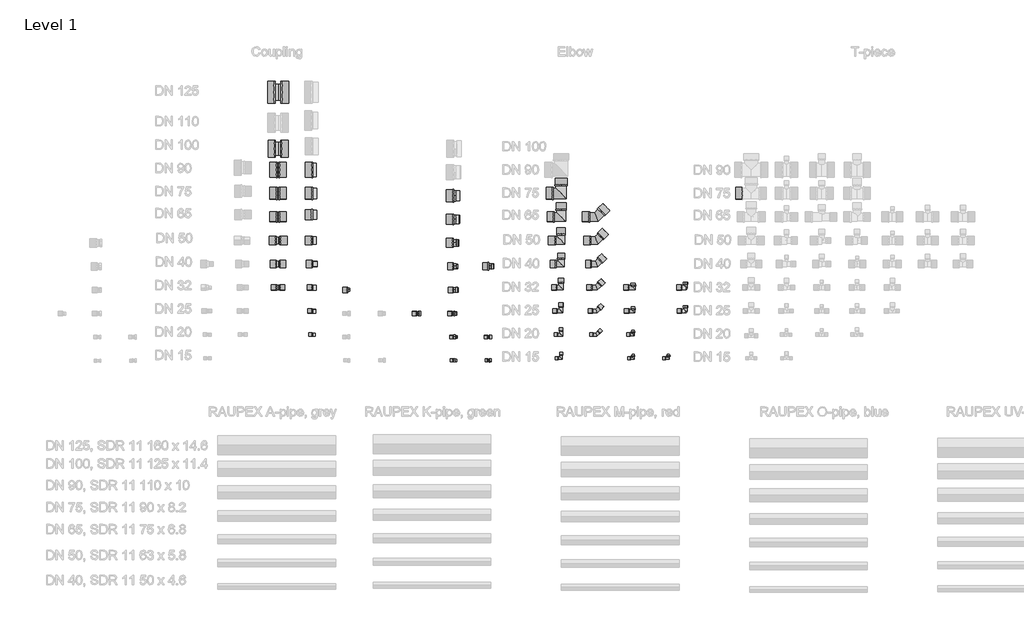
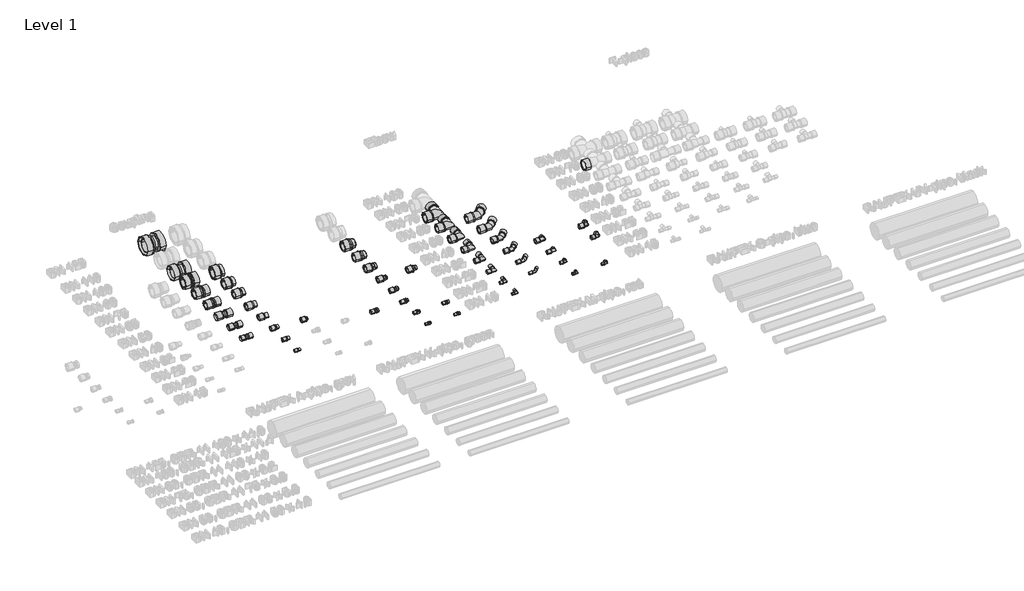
# One storey, part 3 of 15: 123 pipe fittings.
"""IFC4 building model written with IfcOpenShell, lengths in millimetres."""

from ifc_helpers import new_model, si_unit, origin, place, context, project, spatial, transform, mapped, element, save
from components import pipe_fitting_768e8c92, pipe_fitting_f6b20089, pipe_fitting_5d65e2c7, pipe_fitting_7715747c, pipe_fitting_184ea8aa, pipe_fitting_c80349c2, pipe_fitting_1cbe8aa9, pipe_fitting_2a62b2ce, coupling_union_655df743, coupling_union_f10d7a8f, coupling_union_26f199f2, coupling_union_cbcc5ad7, coupling_union_0abae06c, coupling_union_130b633a, coupling_union_132477e5, coupling_union_b98a8659, elbow_sdr11_lx_elbow_sdr_11_lx_623d303d, elbow_sdr11_lx_elbow_sdr_11_lx_9afd64a0, elbow_sdr11_lx_elbow_sdr_11_lx_04f5514c, elbow_sdr11_lx_elbow_sdr_11_lx_b8bc8752, elbow_sdr11_lx_elbow_sdr_11_lx_6126e5dd, elbow_sdr11_lx_elbow_sdr_11_lx_f17d2660, elbow_sdr11_lx_elbow_sdr_11_lx_81e20379, elbow_sdr11_lx_elbow_sdr_11_lx_e0cd5045, elbow_sdr11_lx_elbow_sdr_11_lx_ce320dea, elbow_sdr11_lx_elbow_sdr_11_lx_cb8a91fe, elbow_sdr11_lx_elbow_sdr_11_lx_393a3960, elbow_sdr11_lx_elbow_sdr_11_rx_da30d1f9, elbow_sdr11_lx_elbow_sdr_11_rx_8269fb62, elbow_sdr11_lx_elbow_sdr_11_rx_2fe19cfb, elbow_adapter_sdr11_lx_elbow_adapter_sdr_11_lx_4b792a66, elbow_adapter_sdr11_lx_elbow_adapter_sdr_11_lx_cc2d060e, elbow_adapter_sdr11_lx_elbow_adapter_sdr_11_lx_d02e2b3c, elbow_adapter_sdr11_lx_elbow_adapter_sdr_11_lx_d9d460eb, elbow_adapter_sdr11_lx_elbow_adapter_sdr_11_lx_9b6015cc, elbow_adapter_with_union_nut_sdr_11_lx_9001e0a9, elbow_adapter_with_union_nut_sdr_11_lx_84a4bca8, female_adapter_internal_thread_sdr11_female_adapter_lx_59931cbf, female_adapter_internal_thread_sdr11_female_adapter_lx_052b0fb5, male_adapter_external_thread_sdr11_male_adapter_lx_4a5881c0, male_adapter_external_thread_sdr11_male_adapter_lx_f4faac24, male_adapter_external_thread_sdr11_male_adapter_lx_0d78ced2, male_adapter_external_thread_sdr11_male_adapter_lx_96740124, male_adapter_external_thread_sdr11_male_adapter_lx_289b96de, male_adapter_external_thread_sdr11_male_adapter_lx_11594ce0, male_adapter_external_thread_sdr11_male_adapter_lx_ea96c67b, male_adapter_external_thread_sdr11_male_adapter_lx_b940736f, male_adapter_external_thread_sdr11_male_adapter_lx_cf543375, male_adapter_external_thread_sdr11_male_adapter_rx_4136f3fd, male_adapter_external_thread_sdr11_male_adapter_rx_7419d65c, sleeve_lx_11_2e170aa1, sleeve_lx_11_3fcb8560, sleeve_lx_11_f19e3dbf, sleeve_lx_11_b9b419b6, sleeve_lx_11_e5eab1a7, sleeve_lx_11_ddfe2885, sleeve_rx_11_7b1edd19, sleeve_rx_11_d7843ee1, sleeve_rx_11_d7b6a074, sleeve_rx_11_833a9f47, sleeve_rx_11_53dfce0b

model = new_model("IFC4")

# Units and contexts
model_context = context("Model", 3, world=origin())
ifc_project = project(units=[si_unit("LENGTHUNIT", "METRE", prefix="MILLI")], contexts=[model_context])

# Site, building, storey
site = spatial("IfcSite", under=ifc_project)
building = spatial("IfcBuilding", under=site)
storey = spatial("IfcBuildingStorey", under=building, Name="Level 1", Elevation=0.0)

# Pipe fittings
placement = place(None, origin())
pipe_fitting_shape = pipe_fitting_768e8c92(model_context)
element("IfcPipeFitting", 1, ObjectType="Adapter with welding end : A welding LX", at=placement, inside=storey, context=model_context, shape_type="MappedRepresentation", body=[
    mapped(pipe_fitting_shape, transform((12403.1112925, 1440.5489138, 0.0), x_axis=(1.0, 0.0, 0.0), y_axis=(0.0, 1.0, 0.0), z_axis=(0.0, 0.0, 1.0))),
])
pipe_fitting_2_shape = pipe_fitting_f6b20089(model_context)
element("IfcPipeFitting", 2, ObjectType="Adapter with welding end : A welding RX", at=placement, inside=storey, context=model_context, shape_type="MappedRepresentation", body=[
    mapped(pipe_fitting_2_shape, transform((12403.1112925, 2040.5489138, 0.0), x_axis=(1.0, 0.0, 0.0), y_axis=(0.0, 1.0, 0.0), z_axis=(0.0, 0.0, 1.0))),
])
pipe_fitting_3_shape = pipe_fitting_5d65e2c7(model_context)
element("IfcPipeFitting", 3, ObjectType="Adapter with welding end : A welding LX", at=placement, inside=storey, context=model_context, shape_type="MappedRepresentation", body=[
    mapped(pipe_fitting_3_shape, transform((12403.1112925, 640.5489138, 0.0), x_axis=(1.0, 0.0, 0.0), y_axis=(0.0, 1.0, 0.0), z_axis=(0.0, 0.0, 1.0))),
])
pipe_fitting_4_shape = pipe_fitting_7715747c(model_context)
element("IfcPipeFitting", 4, ObjectType="Adapter with welding end : A welding LX", at=placement, inside=storey, context=model_context, shape_type="MappedRepresentation", body=[
    mapped(pipe_fitting_4_shape, transform((12403.1112925, 1240.5489138, 0.0), x_axis=(1.0, 0.0, 0.0), y_axis=(0.0, 1.0, 0.0), z_axis=(0.0, 0.0, 1.0))),
])
pipe_fitting_5_shape = pipe_fitting_184ea8aa(model_context)
element("IfcPipeFitting", 5, ObjectType="Adapter with welding end : A welding LX", at=placement, inside=storey, context=model_context, shape_type="MappedRepresentation", body=[
    mapped(pipe_fitting_5_shape, transform((12403.1112925, 1040.5489138, 0.0), x_axis=(1.0, 0.0, 0.0), y_axis=(0.0, 1.0, 0.0), z_axis=(0.0, 0.0, 1.0))),
])
pipe_fitting_6_shape = pipe_fitting_c80349c2(model_context)
element("IfcPipeFitting", 6, ObjectType="Adapter with welding end : A welding LX", at=placement, inside=storey, context=model_context, shape_type="MappedRepresentation", body=[
    mapped(pipe_fitting_6_shape, transform((12403.1112925, 840.5489138, 0.0), x_axis=(1.0, 0.0, 0.0), y_axis=(0.0, 1.0, 0.0), z_axis=(0.0, 0.0, 1.0))),
])
pipe_fitting_7_shape = pipe_fitting_1cbe8aa9(model_context)
element("IfcPipeFitting", 7, ObjectType="Adapter with welding end : A welding RX", at=placement, inside=storey, context=model_context, shape_type="MappedRepresentation", body=[
    mapped(pipe_fitting_7_shape, transform((12403.1112925, 1660.5489138, 0.0), x_axis=(1.0, 0.0, 0.0), y_axis=(0.0, 1.0, 0.0), z_axis=(0.0, 0.0, 1.0))),
])
pipe_fitting_8_shape = pipe_fitting_2a62b2ce(model_context)
element("IfcPipeFitting", 8, ObjectType="Adapter with welding end : A welding RX", at=placement, inside=storey, context=model_context, shape_type="MappedRepresentation", body=[
    mapped(pipe_fitting_8_shape, transform((12403.1112925, 1840.5489138, 0.0), x_axis=(1.0, 0.0, 0.0), y_axis=(0.0, 1.0, 0.0), z_axis=(0.0, 0.0, 1.0))),
])
coupling_union_shape = coupling_union_655df743(model_context)
element("IfcPipeFitting", 9, ObjectType="Coupling union : C EQ SDR11 RX", at=placement, inside=storey, context=model_context, shape_type="MappedRepresentation", body=[
    mapped(coupling_union_shape, transform((12103.1112925, 2700.5489138, 0.0), x_axis=(1.0, 0.0, 0.0), y_axis=(0.0, 1.0, 0.0), z_axis=(0.0, 0.0, 1.0))),
])
coupling_union_2_shape = coupling_union_f10d7a8f(model_context)
element("IfcPipeFitting", 10, ObjectType="Coupling union : C EQ SDR11 LX", at=placement, inside=storey, context=model_context, shape_type="MappedRepresentation", body=[
    mapped(coupling_union_2_shape, transform((12103.1112925, 1440.5489138, 0.0), x_axis=(1.0, 0.0, 0.0), y_axis=(0.0, 1.0, 0.0), z_axis=(0.0, 0.0, 1.0))),
])
coupling_union_3_shape = coupling_union_26f199f2(model_context)
element("IfcPipeFitting", 11, ObjectType="Coupling union : C EQ SDR11 LX", at=placement, inside=storey, context=model_context, shape_type="MappedRepresentation", body=[
    mapped(coupling_union_3_shape, transform((12103.1112925, 1040.5489138, 0.0), x_axis=(1.0, 0.0, 0.0), y_axis=(0.0, 1.0, 0.0), z_axis=(0.0, 0.0, 1.0))),
])
coupling_union_4_shape = coupling_union_cbcc5ad7(model_context)
element("IfcPipeFitting", 12, ObjectType="Coupling union : C EQ SDR11 LX", at=placement, inside=storey, context=model_context, shape_type="MappedRepresentation", body=[
    mapped(coupling_union_4_shape, transform((12103.1112925, 1240.5489138, 0.0), x_axis=(1.0, 0.0, 0.0), y_axis=(0.0, 1.0, 0.0), z_axis=(0.0, 0.0, 1.0))),
])
coupling_union_5_shape = coupling_union_0abae06c(model_context)
element("IfcPipeFitting", 13, ObjectType="Coupling union : C EQ SDR11 RX", at=placement, inside=storey, context=model_context, shape_type="MappedRepresentation", body=[
    mapped(coupling_union_5_shape, transform((12103.1112925, 1640.5489138, 0.0), x_axis=(1.0, 0.0, 0.0), y_axis=(0.0, 1.0, 0.0), z_axis=(0.0, 0.0, 1.0))),
])
coupling_union_6_shape = coupling_union_130b633a(model_context)
element("IfcPipeFitting", 14, ObjectType="Coupling union : C EQ SDR11 RX", at=placement, inside=storey, context=model_context, shape_type="MappedRepresentation", body=[
    mapped(coupling_union_6_shape, transform((12103.1112925, 1840.5489138, 0.0), x_axis=(1.0, 0.0, 0.0), y_axis=(0.0, 1.0, 0.0), z_axis=(0.0, 0.0, 1.0))),
])
coupling_union_7_shape = coupling_union_132477e5(model_context)
element("IfcPipeFitting", 15, ObjectType="Coupling union : C EQ SDR11 RX", at=placement, inside=storey, context=model_context, shape_type="MappedRepresentation", body=[
    mapped(coupling_union_7_shape, transform((12103.1112925, 2040.5489138, 0.0), x_axis=(1.0, 0.0, 0.0), y_axis=(0.0, 1.0, 0.0), z_axis=(0.0, 0.0, 1.0))),
])
coupling_union_8_shape = coupling_union_b98a8659(model_context)
element("IfcPipeFitting", 16, ObjectType="Coupling union : C EQ SDR11 RX", at=placement, inside=storey, context=model_context, shape_type="MappedRepresentation", body=[
    mapped(coupling_union_8_shape, transform((12103.1112925, 2220.5489138, 0.0), x_axis=(1.0, 0.0, 0.0), y_axis=(0.0, 1.0, 0.0), z_axis=(0.0, 0.0, 1.0))),
])
elbow_sdr11_lx_elbow_sdr_11_lx_shape = elbow_sdr11_lx_elbow_sdr_11_lx_623d303d(model_context)
element("IfcPipeFitting", 17, ObjectType="Elbow SDR11 LX : Elbow SDR 11 LX", at=placement, inside=storey, context=model_context, shape_type="MappedRepresentation", body=[
    mapped(elbow_sdr11_lx_elbow_sdr_11_lx_shape, transform((14509.6158086, 640.5489138, 0.0), x_axis=(1.0, 0.0, 0.0), y_axis=(0.0, 1.0, 0.0), z_axis=(0.0, 0.0, 1.0))),
])
elbow_sdr11_lx_elbow_sdr_11_lx_2_shape = elbow_sdr11_lx_elbow_sdr_11_lx_9afd64a0(model_context)
element("IfcPipeFitting", 18, ObjectType="Elbow SDR11 LX : Elbow SDR 11 LX", at=placement, inside=storey, context=model_context, shape_type="MappedRepresentation", body=[
    mapped(elbow_sdr11_lx_elbow_sdr_11_lx_2_shape, transform((14509.6158086, 440.5489138, 0.0), x_axis=(1.0, 0.0, 0.0), y_axis=(0.0, 1.0, 0.0), z_axis=(0.0, 0.0, 1.0))),
])
elbow_sdr11_lx_elbow_sdr_11_lx_3_shape = elbow_sdr11_lx_elbow_sdr_11_lx_04f5514c(model_context)
element("IfcPipeFitting", 19, ObjectType="Elbow SDR11 LX : Elbow SDR 11 LX", at=placement, inside=storey, context=model_context, shape_type="MappedRepresentation", body=[
    mapped(elbow_sdr11_lx_elbow_sdr_11_lx_3_shape, transform((14509.6158086, 840.5489138, 0.0), x_axis=(1.0, 0.0, 0.0), y_axis=(0.0, 1.0, 0.0), z_axis=(0.0, 0.0, 1.0))),
])
elbow_sdr11_lx_elbow_sdr_11_lx_4_shape = elbow_sdr11_lx_elbow_sdr_11_lx_b8bc8752(model_context)
element("IfcPipeFitting", 20, ObjectType="Elbow SDR11 LX : Elbow SDR 11 LX", at=placement, inside=storey, context=model_context, shape_type="MappedRepresentation", body=[
    mapped(elbow_sdr11_lx_elbow_sdr_11_lx_4_shape, transform((14509.6158086, 1040.5489138, 0.0), x_axis=(1.0, 0.0, 0.0), y_axis=(0.0, 1.0, 0.0), z_axis=(0.0, 0.0, 1.0))),
])
elbow_sdr11_lx_elbow_sdr_11_lx_5_shape = elbow_sdr11_lx_elbow_sdr_11_lx_6126e5dd(model_context)
element("IfcPipeFitting", 21, ObjectType="Elbow SDR11 LX : Elbow SDR 11 LX", at=placement, inside=storey, context=model_context, shape_type="MappedRepresentation", body=[
    mapped(elbow_sdr11_lx_elbow_sdr_11_lx_5_shape, transform((14509.6158086, 1240.5489138, 0.0), x_axis=(1.0, 0.0, 0.0), y_axis=(0.0, 1.0, 0.0), z_axis=(0.0, 0.0, 1.0))),
])
elbow_sdr11_lx_elbow_sdr_11_lx_6_shape = elbow_sdr11_lx_elbow_sdr_11_lx_f17d2660(model_context)
element("IfcPipeFitting", 22, ObjectType="Elbow SDR11 LX : Elbow SDR 11 LX", at=placement, inside=storey, context=model_context, shape_type="MappedRepresentation", body=[
    mapped(elbow_sdr11_lx_elbow_sdr_11_lx_6_shape, transform((14509.6158086, 1440.5489138, 0.0), x_axis=(1.0, 0.0, 0.0), y_axis=(0.0, 1.0, 0.0), z_axis=(0.0, 0.0, 1.0))),
])
elbow_sdr11_lx_elbow_sdr_11_lx_7_shape = elbow_sdr11_lx_elbow_sdr_11_lx_81e20379(model_context)
element("IfcPipeFitting", 23, ObjectType="Elbow SDR11 LX : Elbow SDR 11 LX", at=placement, inside=storey, context=model_context, shape_type="MappedRepresentation", body=[
    mapped(elbow_sdr11_lx_elbow_sdr_11_lx_7_shape, transform((14809.6158086, 640.5489138, 0.0), x_axis=(1.0, 0.0, 0.0), y_axis=(0.0, 1.0, 0.0), z_axis=(0.0, 0.0, 1.0))),
])
elbow_sdr11_lx_elbow_sdr_11_lx_8_shape = elbow_sdr11_lx_elbow_sdr_11_lx_e0cd5045(model_context)
element("IfcPipeFitting", 24, ObjectType="Elbow SDR11 LX : Elbow SDR 11 LX", at=placement, inside=storey, context=model_context, shape_type="MappedRepresentation", body=[
    mapped(elbow_sdr11_lx_elbow_sdr_11_lx_8_shape, transform((14809.6158086, 840.5489138, 0.0), x_axis=(1.0, 0.0, 0.0), y_axis=(0.0, 1.0, 0.0), z_axis=(0.0, 0.0, 1.0))),
])
elbow_sdr11_lx_elbow_sdr_11_lx_9_shape = elbow_sdr11_lx_elbow_sdr_11_lx_ce320dea(model_context)
element("IfcPipeFitting", 25, ObjectType="Elbow SDR11 LX : Elbow SDR 11 LX", at=placement, inside=storey, context=model_context, shape_type="MappedRepresentation", body=[
    mapped(elbow_sdr11_lx_elbow_sdr_11_lx_9_shape, transform((14809.6158086, 1040.5489138, 0.0), x_axis=(1.0, 0.0, 0.0), y_axis=(0.0, 1.0, 0.0), z_axis=(0.0, 0.0, 1.0))),
])
elbow_sdr11_lx_elbow_sdr_11_lx_10_shape = elbow_sdr11_lx_elbow_sdr_11_lx_cb8a91fe(model_context)
element("IfcPipeFitting", 26, ObjectType="Elbow SDR11 LX : Elbow SDR 11 LX", at=placement, inside=storey, context=model_context, shape_type="MappedRepresentation", body=[
    mapped(elbow_sdr11_lx_elbow_sdr_11_lx_10_shape, transform((14809.6158086, 1240.5489138, 0.0), x_axis=(1.0, 0.0, 0.0), y_axis=(0.0, 1.0, 0.0), z_axis=(0.0, 0.0, 1.0))),
])
elbow_sdr11_lx_elbow_sdr_11_lx_11_shape = elbow_sdr11_lx_elbow_sdr_11_lx_393a3960(model_context)
element("IfcPipeFitting", 27, ObjectType="Elbow SDR11 LX : Elbow SDR 11 LX", at=placement, inside=storey, context=model_context, shape_type="MappedRepresentation", body=[
    mapped(elbow_sdr11_lx_elbow_sdr_11_lx_11_shape, transform((14809.6158086, 1440.5489138, 0.0), x_axis=(1.0, 0.0, 0.0), y_axis=(0.0, 1.0, 0.0), z_axis=(0.0, 0.0, 1.0))),
])
elbow_sdr11_lx_elbow_sdr_11_rx_shape = elbow_sdr11_lx_elbow_sdr_11_rx_da30d1f9(model_context)
element("IfcPipeFitting", 28, ObjectType="Elbow SDR11 LX : Elbow SDR 11 RX", at=placement, inside=storey, context=model_context, shape_type="MappedRepresentation", body=[
    mapped(elbow_sdr11_lx_elbow_sdr_11_rx_shape, transform((14509.6158086, 1640.5489138, 0.0), x_axis=(1.0, 0.0, 0.0), y_axis=(0.0, 1.0, 0.0), z_axis=(0.0, 0.0, 1.0))),
])
elbow_sdr11_lx_elbow_sdr_11_rx_2_shape = elbow_sdr11_lx_elbow_sdr_11_rx_8269fb62(model_context)
element("IfcPipeFitting", 29, ObjectType="Elbow SDR11 LX : Elbow SDR 11 RX", at=placement, inside=storey, context=model_context, shape_type="MappedRepresentation", body=[
    mapped(elbow_sdr11_lx_elbow_sdr_11_rx_2_shape, transform((14509.6158086, 1840.5489138, 0.0), x_axis=(1.0, 0.0, 0.0), y_axis=(0.0, 1.0, 0.0), z_axis=(0.0, 0.0, 1.0))),
])
elbow_sdr11_lx_elbow_sdr_11_rx_3_shape = elbow_sdr11_lx_elbow_sdr_11_rx_2fe19cfb(model_context)
element("IfcPipeFitting", 30, ObjectType="Elbow SDR11 LX : Elbow SDR 11 RX", at=placement, inside=storey, context=model_context, shape_type="MappedRepresentation", body=[
    mapped(elbow_sdr11_lx_elbow_sdr_11_rx_3_shape, transform((14809.6158086, 1640.5489138, 0.0), x_axis=(1.0, 0.0, 0.0), y_axis=(0.0, 1.0, 0.0), z_axis=(0.0, 0.0, 1.0))),
])
elbow_adapter_sdr11_lx_elbow_adapter_sdr_11_lx_shape = elbow_adapter_sdr11_lx_elbow_adapter_sdr_11_lx_4b792a66(model_context)
element("IfcPipeFitting", 31, ObjectType="Elbow adapter SDR11 LX : Elbow adapter SDR 11 LX", at=placement, inside=storey, context=model_context, shape_type="MappedRepresentation", body=[
    mapped(elbow_adapter_sdr11_lx_elbow_adapter_sdr_11_lx_shape, transform((15121.1751687, 440.5489138, 0.0), x_axis=(1.0, 0.0, 0.0), y_axis=(0.0, 1.0, 0.0), z_axis=(0.0, 0.0, 1.0))),
])
elbow_adapter_sdr11_lx_elbow_adapter_sdr_11_lx_2_shape = elbow_adapter_sdr11_lx_elbow_adapter_sdr_11_lx_cc2d060e(model_context)
element("IfcPipeFitting", 32, ObjectType="Elbow adapter SDR11 LX : Elbow adapter SDR 11 LX", at=placement, inside=storey, context=model_context, shape_type="MappedRepresentation", body=[
    mapped(elbow_adapter_sdr11_lx_elbow_adapter_sdr_11_lx_2_shape, transform((15421.1751687, 440.5489138, 0.0), x_axis=(1.0, 0.0, 0.0), y_axis=(0.0, 1.0, 0.0), z_axis=(0.0, 0.0, 1.0))),
])
elbow_adapter_sdr11_lx_elbow_adapter_sdr_11_lx_3_shape = elbow_adapter_sdr11_lx_elbow_adapter_sdr_11_lx_d02e2b3c(model_context)
element("IfcPipeFitting", 33, ObjectType="Elbow adapter SDR11 LX : Elbow adapter SDR 11 LX", at=placement, inside=storey, context=model_context, shape_type="MappedRepresentation", body=[
    mapped(elbow_adapter_sdr11_lx_elbow_adapter_sdr_11_lx_3_shape, transform((15121.1751687, 640.5489138, 0.0), x_axis=(1.0, 0.0, 0.0), y_axis=(0.0, 1.0, 0.0), z_axis=(0.0, 0.0, 1.0))),
])
elbow_adapter_sdr11_lx_elbow_adapter_sdr_11_lx_4_shape = elbow_adapter_sdr11_lx_elbow_adapter_sdr_11_lx_d9d460eb(model_context)
element("IfcPipeFitting", 34, ObjectType="Elbow adapter SDR11 LX : Elbow adapter SDR 11 LX", at=placement, inside=storey, context=model_context, shape_type="MappedRepresentation", body=[
    mapped(elbow_adapter_sdr11_lx_elbow_adapter_sdr_11_lx_4_shape, transform((15121.1751687, 840.5489138, 0.0), x_axis=(1.0, 0.0, 0.0), y_axis=(0.0, 1.0, 0.0), z_axis=(0.0, 0.0, 1.0))),
])
elbow_adapter_sdr11_lx_elbow_adapter_sdr_11_lx_5_shape = elbow_adapter_sdr11_lx_elbow_adapter_sdr_11_lx_9b6015cc(model_context)
element("IfcPipeFitting", 35, ObjectType="Elbow adapter SDR11 LX : Elbow adapter SDR 11 LX", at=placement, inside=storey, context=model_context, shape_type="MappedRepresentation", body=[
    mapped(elbow_adapter_sdr11_lx_elbow_adapter_sdr_11_lx_5_shape, transform((15121.1751687, 1040.5489138, 0.0), x_axis=(1.0, 0.0, 0.0), y_axis=(0.0, 1.0, 0.0), z_axis=(0.0, 0.0, 1.0))),
])
elbow_adapter_with_union_nut_sdr_11_lx_shape = elbow_adapter_with_union_nut_sdr_11_lx_9001e0a9(model_context)
element("IfcPipeFitting", 36, ObjectType="Elbow adapter with union nut SDR11 LX  : Elbow adapter with union nut SDR 11 LX", at=placement, inside=storey, context=model_context, shape_type="MappedRepresentation", body=[
    mapped(elbow_adapter_with_union_nut_sdr_11_lx_shape, transform((15569.0164475, 840.5489138, 0.0), x_axis=(1.0, 0.0, 0.0), y_axis=(0.0, 1.0, 0.0), z_axis=(0.0, 0.0, 1.0))),
])
elbow_adapter_with_union_nut_sdr_11_lx_2_shape = elbow_adapter_with_union_nut_sdr_11_lx_84a4bca8(model_context)
element("IfcPipeFitting", 37, ObjectType="Elbow adapter with union nut SDR11 LX  : Elbow adapter with union nut SDR 11 LX", at=placement, inside=storey, context=model_context, shape_type="MappedRepresentation", body=[
    mapped(elbow_adapter_with_union_nut_sdr_11_lx_2_shape, transform((15569.0164475, 1040.5489138, 0.0), x_axis=(1.0, 0.0, 0.0), y_axis=(0.0, 1.0, 0.0), z_axis=(0.0, 0.0, 1.0))),
])
female_adapter_internal_thread_sdr11_female_adapter_lx_shape = female_adapter_internal_thread_sdr11_female_adapter_lx_59931cbf(model_context)
element("IfcPipeFitting", 38, ObjectType="Female adapter internal thread SDR11 : Female adapter LX", at=placement, inside=storey, context=model_context, shape_type="MappedRepresentation", body=[
    mapped(female_adapter_internal_thread_sdr11_female_adapter_lx_shape, transform((13296.8014725, 820.5489138, 0.0), x_axis=(1.0, 0.0, 0.0), y_axis=(0.0, 1.0, 0.0), z_axis=(0.0, 0.0, 1.0))),
])
female_adapter_internal_thread_sdr11_female_adapter_lx_2_shape = female_adapter_internal_thread_sdr11_female_adapter_lx_052b0fb5(model_context)
element("IfcPipeFitting", 39, ObjectType="Female adapter internal thread SDR11 : Female adapter LX", at=placement, inside=storey, context=model_context, shape_type="MappedRepresentation", body=[
    mapped(female_adapter_internal_thread_sdr11_female_adapter_lx_2_shape, transform((12696.8014725, 1020.5489138, 0.0), x_axis=(1.0, 0.0, 0.0), y_axis=(0.0, 1.0, 0.0), z_axis=(0.0, 0.0, 1.0))),
])
male_adapter_external_thread_sdr11_male_adapter_lx_shape = male_adapter_external_thread_sdr11_male_adapter_lx_4a5881c0(model_context)
element("IfcPipeFitting", 40, ObjectType="Male adapter external thread SDR11 : Male adapter LX", at=placement, inside=storey, context=model_context, shape_type="MappedRepresentation", body=[
    mapped(male_adapter_external_thread_sdr11_male_adapter_lx_shape, transform((13596.8014725, 420.5489138, 0.0), x_axis=(1.0, 0.0, 0.0), y_axis=(0.0, 1.0, 0.0), z_axis=(0.0, 0.0, 1.0))),
])
male_adapter_external_thread_sdr11_male_adapter_lx_2_shape = male_adapter_external_thread_sdr11_male_adapter_lx_f4faac24(model_context)
element("IfcPipeFitting", 41, ObjectType="Male adapter external thread SDR11 : Male adapter LX", at=placement, inside=storey, context=model_context, shape_type="MappedRepresentation", body=[
    mapped(male_adapter_external_thread_sdr11_male_adapter_lx_2_shape, transform((13896.8014725, 420.5489138, 0.0), x_axis=(1.0, 0.0, 0.0), y_axis=(0.0, 1.0, 0.0), z_axis=(0.0, 0.0, 1.0))),
])
male_adapter_external_thread_sdr11_male_adapter_lx_3_shape = male_adapter_external_thread_sdr11_male_adapter_lx_0d78ced2(model_context)
element("IfcPipeFitting", 42, ObjectType="Male adapter external thread SDR11 : Male adapter LX", at=placement, inside=storey, context=model_context, shape_type="MappedRepresentation", body=[
    mapped(male_adapter_external_thread_sdr11_male_adapter_lx_3_shape, transform((13596.8014725, 620.5489138, 0.0), x_axis=(1.0, 0.0, 0.0), y_axis=(0.0, 1.0, 0.0), z_axis=(0.0, 0.0, 1.0))),
])
male_adapter_external_thread_sdr11_male_adapter_lx_4_shape = male_adapter_external_thread_sdr11_male_adapter_lx_96740124(model_context)
element("IfcPipeFitting", 43, ObjectType="Male adapter external thread SDR11 : Male adapter LX", at=placement, inside=storey, context=model_context, shape_type="MappedRepresentation", body=[
    mapped(male_adapter_external_thread_sdr11_male_adapter_lx_4_shape, transform((13896.8014725, 620.5489138, 0.0), x_axis=(1.0, 0.0, 0.0), y_axis=(0.0, 1.0, 0.0), z_axis=(0.0, 0.0, 1.0))),
])
male_adapter_external_thread_sdr11_male_adapter_lx_5_shape = male_adapter_external_thread_sdr11_male_adapter_lx_289b96de(model_context)
element("IfcPipeFitting", 44, ObjectType="Male adapter external thread SDR11 : Male adapter LX", at=placement, inside=storey, context=model_context, shape_type="MappedRepresentation", body=[
    mapped(male_adapter_external_thread_sdr11_male_adapter_lx_5_shape, transform((13596.8014725, 820.5489138, 0.0), x_axis=(1.0, 0.0, 0.0), y_axis=(0.0, 1.0, 0.0), z_axis=(0.0, 0.0, 1.0))),
])
male_adapter_external_thread_sdr11_male_adapter_lx_6_shape = male_adapter_external_thread_sdr11_male_adapter_lx_11594ce0(model_context)
element("IfcPipeFitting", 45, ObjectType="Male adapter external thread SDR11 : Male adapter LX", at=placement, inside=storey, context=model_context, shape_type="MappedRepresentation", body=[
    mapped(male_adapter_external_thread_sdr11_male_adapter_lx_6_shape, transform((13596.8014725, 1020.5489138, 0.0), x_axis=(1.0, 0.0, 0.0), y_axis=(0.0, 1.0, 0.0), z_axis=(0.0, 0.0, 1.0))),
])
male_adapter_external_thread_sdr11_male_adapter_lx_7_shape = male_adapter_external_thread_sdr11_male_adapter_lx_ea96c67b(model_context)
element("IfcPipeFitting", 46, ObjectType="Male adapter external thread SDR11 : Male adapter LX", at=placement, inside=storey, context=model_context, shape_type="MappedRepresentation", body=[
    mapped(male_adapter_external_thread_sdr11_male_adapter_lx_7_shape, transform((13596.8014725, 1220.5489138, 0.0), x_axis=(1.0, 0.0, 0.0), y_axis=(0.0, 1.0, 0.0), z_axis=(0.0, 0.0, 1.0))),
])
male_adapter_external_thread_sdr11_male_adapter_lx_8_shape = male_adapter_external_thread_sdr11_male_adapter_lx_b940736f(model_context)
element("IfcPipeFitting", 47, ObjectType="Male adapter external thread SDR11 : Male adapter LX", at=placement, inside=storey, context=model_context, shape_type="MappedRepresentation", body=[
    mapped(male_adapter_external_thread_sdr11_male_adapter_lx_8_shape, transform((13896.8014725, 1220.5489138, 0.0), x_axis=(1.0, 0.0, 0.0), y_axis=(0.0, 1.0, 0.0), z_axis=(0.0, 0.0, 1.0))),
])
male_adapter_external_thread_sdr11_male_adapter_lx_9_shape = male_adapter_external_thread_sdr11_male_adapter_lx_cf543375(model_context)
element("IfcPipeFitting", 48, ObjectType="Male adapter external thread SDR11 : Male adapter LX", at=placement, inside=storey, context=model_context, shape_type="MappedRepresentation", body=[
    mapped(male_adapter_external_thread_sdr11_male_adapter_lx_9_shape, transform((13596.8014725, 1420.5489138, 0.0), x_axis=(1.0, 0.0, 0.0), y_axis=(0.0, 1.0, 0.0), z_axis=(0.0, 0.0, 1.0))),
])
male_adapter_external_thread_sdr11_male_adapter_rx_shape = male_adapter_external_thread_sdr11_male_adapter_rx_4136f3fd(model_context)
element("IfcPipeFitting", 49, ObjectType="Male adapter external thread SDR11 : Male adapter RX", at=placement, inside=storey, context=model_context, shape_type="MappedRepresentation", body=[
    mapped(male_adapter_external_thread_sdr11_male_adapter_rx_shape, transform((13596.8014725, 1620.5489138, 0.0), x_axis=(1.0, 0.0, 0.0), y_axis=(0.0, 1.0, 0.0), z_axis=(0.0, 0.0, 1.0))),
])
male_adapter_external_thread_sdr11_male_adapter_rx_2_shape = male_adapter_external_thread_sdr11_male_adapter_rx_7419d65c(model_context)
element("IfcPipeFitting", 50, ObjectType="Male adapter external thread SDR11 : Male adapter RX", at=placement, inside=storey, context=model_context, shape_type="MappedRepresentation", body=[
    mapped(male_adapter_external_thread_sdr11_male_adapter_rx_2_shape, transform((13596.8014725, 1820.5489138, 0.0), x_axis=(1.0, 0.0, 0.0), y_axis=(0.0, 1.0, 0.0), z_axis=(0.0, 0.0, 1.0))),
])
sleeve_lx_11_shape = sleeve_lx_11_2e170aa1(model_context)
element("IfcPipeFitting", 51, ObjectType="Sleeve : LX 11", at=placement, inside=storey, context=model_context, shape_type="MappedRepresentation", body=[
    mapped(sleeve_lx_11_shape, transform((15048.1751687, 840.5489138, 0.0), x_axis=(1.0, 0.0, 0.0), y_axis=(0.0, 1.0, 0.0), z_axis=(0.0, 0.0, 1.0))),
])
element("IfcPipeFitting", 52, ObjectType="Sleeve : LX 11", at=placement, inside=storey, context=model_context, shape_type="MappedRepresentation", body=[
    mapped(sleeve_lx_11_shape, transform((15497.5164475, 840.5489138, 0.0), x_axis=(1.0, 0.0, 0.0), y_axis=(0.0, 1.0, 0.0), z_axis=(0.0, 0.0, 1.0))),
])
element("IfcPipeFitting", 53, ObjectType="Sleeve : LX 11", at=placement, inside=storey, context=model_context, shape_type="MappedRepresentation", body=[
    mapped(sleeve_lx_11_shape, transform((14438.6158086, 840.5489138, 0.0), x_axis=(1.0, 0.0, 0.0), y_axis=(0.0, 1.0, 0.0), z_axis=(0.0, 0.0, 1.0))),
])
element("IfcPipeFitting", 54, ObjectType="Sleeve : LX 11", at=placement, inside=storey, context=model_context, shape_type="MappedRepresentation", body=[
    mapped(sleeve_lx_11_shape, transform((14509.6158086, 911.5489138, 0.0), x_axis=(0.0, -1.0, 0.0), y_axis=(1.0, 0.0, 0.0), z_axis=(0.0, 0.0, 1.0))),
])
element("IfcPipeFitting", 55, ObjectType="Sleeve : LX 11", at=placement, inside=storey, context=model_context, shape_type="MappedRepresentation", body=[
    mapped(sleeve_lx_11_shape, transform((13242.5014725, 820.5489138, 0.0), x_axis=(1.0, 0.0, 0.0), y_axis=(0.0, 1.0, 0.0), z_axis=(0.0, 0.0, 1.0))),
])
element("IfcPipeFitting", 56, ObjectType="Sleeve : LX 11", at=placement, inside=storey, context=model_context, shape_type="MappedRepresentation", body=[
    mapped(sleeve_lx_11_shape, transform((13546.8014725, 820.5489138, 0.0), x_axis=(1.0, 0.0, 0.0), y_axis=(0.0, 1.0, 0.0), z_axis=(0.0, 0.0, 1.0))),
])
element("IfcPipeFitting", 57, ObjectType="Sleeve : LX 11", at=placement, inside=storey, context=model_context, shape_type="MappedRepresentation", body=[
    mapped(sleeve_lx_11_shape, transform((14738.6158086, 840.5489138, 0.0), x_axis=(1.0, 0.0, 0.0), y_axis=(0.0, 1.0, 0.0), z_axis=(0.0, 0.0, 1.0))),
])
element("IfcPipeFitting", 58, ObjectType="Sleeve : LX 11", at=placement, inside=storey, context=model_context, shape_type="MappedRepresentation", body=[
    mapped(sleeve_lx_11_shape, transform((14859.8203901, 890.7534953, 0.0), x_axis=(-0.707106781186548, -0.707106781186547, 0.0), y_axis=(0.707106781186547, -0.707106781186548, 0.0), z_axis=(0.0, 0.0, 1.0))),
])
element("IfcPipeFitting", 59, ObjectType="Sleeve : LX 11", at=placement, inside=storey, context=model_context, shape_type="MappedRepresentation", body=[
    mapped(sleeve_lx_11_shape, transform((12354.9112925, 840.5489138, 0.0), x_axis=(1.0, 0.0, 0.0), y_axis=(0.0, 1.0, 0.0), z_axis=(0.0, 0.0, 1.0))),
])
sleeve_lx_11_2_shape = sleeve_lx_11_3fcb8560(model_context)
element("IfcPipeFitting", 60, ObjectType="Sleeve : LX 11", at=placement, inside=storey, context=model_context, shape_type="MappedRepresentation", body=[
    mapped(sleeve_lx_11_2_shape, transform((15076.1751687, 440.5489138, 0.0), x_axis=(1.0, 0.0, 0.0), y_axis=(0.0, 1.0, 0.0), z_axis=(0.0, 0.0, 1.0))),
])
element("IfcPipeFitting", 61, ObjectType="Sleeve : LX 11", at=placement, inside=storey, context=model_context, shape_type="MappedRepresentation", body=[
    mapped(sleeve_lx_11_2_shape, transform((15373.1751687, 440.5489138, 0.0), x_axis=(1.0, 0.0, 0.0), y_axis=(0.0, 1.0, 0.0), z_axis=(0.0, 0.0, 1.0))),
])
element("IfcPipeFitting", 62, ObjectType="Sleeve : LX 11", at=placement, inside=storey, context=model_context, shape_type="MappedRepresentation", body=[
    mapped(sleeve_lx_11_2_shape, transform((14461.1158086, 440.5489138, 0.0), x_axis=(1.0, 0.0, 0.0), y_axis=(0.0, 1.0, 0.0), z_axis=(0.0, 0.0, 1.0))),
])
element("IfcPipeFitting", 63, ObjectType="Sleeve : LX 11", at=placement, inside=storey, context=model_context, shape_type="MappedRepresentation", body=[
    mapped(sleeve_lx_11_2_shape, transform((14509.6158086, 489.0489138, 0.0), x_axis=(0.0, -1.0, 0.0), y_axis=(1.0, 0.0, 0.0), z_axis=(0.0, 0.0, 1.0))),
])
element("IfcPipeFitting", 64, ObjectType="Sleeve : LX 11", at=placement, inside=storey, context=model_context, shape_type="MappedRepresentation", body=[
    mapped(sleeve_lx_11_2_shape, transform((13568.9014725, 420.5489138, 0.0), x_axis=(1.0, 0.0, 0.0), y_axis=(0.0, 1.0, 0.0), z_axis=(0.0, 0.0, 1.0))),
])
element("IfcPipeFitting", 65, ObjectType="Sleeve : LX 11", at=placement, inside=storey, context=model_context, shape_type="MappedRepresentation", body=[
    mapped(sleeve_lx_11_2_shape, transform((13862.8014725, 420.5489138, 0.0), x_axis=(1.0, 0.0, 0.0), y_axis=(0.0, 1.0, 0.0), z_axis=(0.0, 0.0, 1.0))),
])
sleeve_lx_11_3_shape = sleeve_lx_11_f19e3dbf(model_context)
element("IfcPipeFitting", 66, ObjectType="Sleeve : LX 11", at=placement, inside=storey, context=model_context, shape_type="MappedRepresentation", body=[
    mapped(sleeve_lx_11_3_shape, transform((15066.1751687, 640.5489138, 0.0), x_axis=(1.0, 0.0, 0.0), y_axis=(0.0, 1.0, 0.0), z_axis=(0.0, 0.0, 1.0))),
])
element("IfcPipeFitting", 67, ObjectType="Sleeve : LX 11", at=placement, inside=storey, context=model_context, shape_type="MappedRepresentation", body=[
    mapped(sleeve_lx_11_3_shape, transform((14451.6158086, 640.5489138, 0.0), x_axis=(1.0, 0.0, 0.0), y_axis=(0.0, 1.0, 0.0), z_axis=(0.0, 0.0, 1.0))),
])
element("IfcPipeFitting", 68, ObjectType="Sleeve : LX 11", at=placement, inside=storey, context=model_context, shape_type="MappedRepresentation", body=[
    mapped(sleeve_lx_11_3_shape, transform((14509.6158086, 698.5489138, 0.0), x_axis=(0.0, -1.0, 0.0), y_axis=(1.0, 0.0, 0.0), z_axis=(0.0, 0.0, 1.0))),
])
element("IfcPipeFitting", 69, ObjectType="Sleeve : LX 11", at=placement, inside=storey, context=model_context, shape_type="MappedRepresentation", body=[
    mapped(sleeve_lx_11_3_shape, transform((13561.9014725, 620.5489138, 0.0), x_axis=(1.0, 0.0, 0.0), y_axis=(0.0, 1.0, 0.0), z_axis=(0.0, 0.0, 1.0))),
])
element("IfcPipeFitting", 70, ObjectType="Sleeve : LX 11", at=placement, inside=storey, context=model_context, shape_type="MappedRepresentation", body=[
    mapped(sleeve_lx_11_3_shape, transform((13855.8014725, 620.5489138, 0.0), x_axis=(1.0, 0.0, 0.0), y_axis=(0.0, 1.0, 0.0), z_axis=(0.0, 0.0, 1.0))),
])
element("IfcPipeFitting", 71, ObjectType="Sleeve : LX 11", at=placement, inside=storey, context=model_context, shape_type="MappedRepresentation", body=[
    mapped(sleeve_lx_11_3_shape, transform((14751.6158086, 640.5489138, 0.0), x_axis=(1.0, 0.0, 0.0), y_axis=(0.0, 1.0, 0.0), z_axis=(0.0, 0.0, 1.0))),
])
element("IfcPipeFitting", 72, ObjectType="Sleeve : LX 11", at=placement, inside=storey, context=model_context, shape_type="MappedRepresentation", body=[
    mapped(sleeve_lx_11_3_shape, transform((14850.6280019, 681.5611071, 0.0), x_axis=(-0.707106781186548, -0.707106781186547, 0.0), y_axis=(0.707106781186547, -0.707106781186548, 0.0), z_axis=(0.0, 0.0, 1.0))),
])
element("IfcPipeFitting", 73, ObjectType="Sleeve : LX 11", at=placement, inside=storey, context=model_context, shape_type="MappedRepresentation", body=[
    mapped(sleeve_lx_11_3_shape, transform((12363.6112925, 640.5489138, 0.0), x_axis=(1.0, 0.0, 0.0), y_axis=(0.0, 1.0, 0.0), z_axis=(0.0, 0.0, 1.0))),
])
sleeve_lx_11_4_shape = sleeve_lx_11_b9b419b6(model_context)
element("IfcPipeFitting", 74, ObjectType="Sleeve : LX 11", at=placement, inside=storey, context=model_context, shape_type="MappedRepresentation", body=[
    mapped(sleeve_lx_11_4_shape, transform((12047.1112925, 1040.5489138, 0.0), x_axis=(1.0, 0.0, 0.0), y_axis=(0.0, 1.0, 0.0), z_axis=(0.0, 0.0, 1.0))),
])
element("IfcPipeFitting", 75, ObjectType="Sleeve : LX 11", at=placement, inside=storey, context=model_context, shape_type="MappedRepresentation", body=[
    mapped(sleeve_lx_11_4_shape, transform((12122.1112925, 1040.5489138, 0.0), x_axis=(1.0, 0.0, 0.0), y_axis=(0.0, 1.0, 0.0), z_axis=(0.0, 0.0, 1.0))),
])
element("IfcPipeFitting", 76, ObjectType="Sleeve : LX 11", at=placement, inside=storey, context=model_context, shape_type="MappedRepresentation", body=[
    mapped(sleeve_lx_11_4_shape, transform((15041.6751687, 1040.5489138, 0.0), x_axis=(1.0, 0.0, 0.0), y_axis=(0.0, 1.0, 0.0), z_axis=(0.0, 0.0, 1.0))),
])
element("IfcPipeFitting", 77, ObjectType="Sleeve : LX 11", at=placement, inside=storey, context=model_context, shape_type="MappedRepresentation", body=[
    mapped(sleeve_lx_11_4_shape, transform((15493.5164475, 1040.5489138, 0.0), x_axis=(1.0, 0.0, 0.0), y_axis=(0.0, 1.0, 0.0), z_axis=(0.0, 0.0, 1.0))),
])
element("IfcPipeFitting", 78, ObjectType="Sleeve : LX 11", at=placement, inside=storey, context=model_context, shape_type="MappedRepresentation", body=[
    mapped(sleeve_lx_11_4_shape, transform((14429.4158086, 1040.5489138, 0.0), x_axis=(1.0, 0.0, 0.0), y_axis=(0.0, 1.0, 0.0), z_axis=(0.0, 0.0, 1.0))),
])
element("IfcPipeFitting", 79, ObjectType="Sleeve : LX 11", at=placement, inside=storey, context=model_context, shape_type="MappedRepresentation", body=[
    mapped(sleeve_lx_11_4_shape, transform((14509.6158086, 1120.7489138, 0.0), x_axis=(0.0, -1.0, 0.0), y_axis=(1.0, 0.0, 0.0), z_axis=(0.0, 0.0, 1.0))),
])
element("IfcPipeFitting", 80, ObjectType="Sleeve : LX 11", at=placement, inside=storey, context=model_context, shape_type="MappedRepresentation", body=[
    mapped(sleeve_lx_11_4_shape, transform((12651.2014725, 1020.5489138, 0.0), x_axis=(1.0, 0.0, 0.0), y_axis=(0.0, 1.0, 0.0), z_axis=(0.0, 0.0, 1.0))),
])
element("IfcPipeFitting", 81, ObjectType="Sleeve : LX 11", at=placement, inside=storey, context=model_context, shape_type="MappedRepresentation", body=[
    mapped(sleeve_lx_11_4_shape, transform((13551.1014725, 1020.5489138, 0.0), x_axis=(1.0, 0.0, 0.0), y_axis=(0.0, 1.0, 0.0), z_axis=(0.0, 0.0, 1.0))),
])
element("IfcPipeFitting", 82, ObjectType="Sleeve : LX 11", at=placement, inside=storey, context=model_context, shape_type="MappedRepresentation", body=[
    mapped(sleeve_lx_11_4_shape, transform((14729.4158086, 1040.5489138, 0.0), x_axis=(1.0, 0.0, 0.0), y_axis=(0.0, 1.0, 0.0), z_axis=(0.0, 0.0, 1.0))),
])
element("IfcPipeFitting", 83, ObjectType="Sleeve : LX 11", at=placement, inside=storey, context=model_context, shape_type="MappedRepresentation", body=[
    mapped(sleeve_lx_11_4_shape, transform((14866.3257725, 1097.2588777, 0.0), x_axis=(-0.707106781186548, -0.707106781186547, 0.0), y_axis=(0.707106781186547, -0.707106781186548, 0.0), z_axis=(0.0, 0.0, 1.0))),
])
element("IfcPipeFitting", 84, ObjectType="Sleeve : LX 11", at=placement, inside=storey, context=model_context, shape_type="MappedRepresentation", body=[
    mapped(sleeve_lx_11_4_shape, transform((12350.8112925, 1040.5489138, 0.0), x_axis=(1.0, 0.0, 0.0), y_axis=(0.0, 1.0, 0.0), z_axis=(0.0, 0.0, 1.0))),
])
sleeve_lx_11_5_shape = sleeve_lx_11_e5eab1a7(model_context)
element("IfcPipeFitting", 85, ObjectType="Sleeve : LX 11", at=placement, inside=storey, context=model_context, shape_type="MappedRepresentation", body=[
    mapped(sleeve_lx_11_5_shape, transform((12038.7112925, 1240.5489138, 0.0), x_axis=(1.0, 0.0, 0.0), y_axis=(0.0, 1.0, 0.0), z_axis=(0.0, 0.0, 1.0))),
])
element("IfcPipeFitting", 86, ObjectType="Sleeve : LX 11", at=placement, inside=storey, context=model_context, shape_type="MappedRepresentation", body=[
    mapped(sleeve_lx_11_5_shape, transform((12123.5112925, 1240.5489138, 0.0), x_axis=(1.0, 0.0, 0.0), y_axis=(0.0, 1.0, 0.0), z_axis=(0.0, 0.0, 1.0))),
])
element("IfcPipeFitting", 87, ObjectType="Sleeve : LX 11", at=placement, inside=storey, context=model_context, shape_type="MappedRepresentation", body=[
    mapped(sleeve_lx_11_5_shape, transform((14417.1158086, 1240.5489138, 0.0), x_axis=(1.0, 0.0, 0.0), y_axis=(0.0, 1.0, 0.0), z_axis=(0.0, 0.0, 1.0))),
])
element("IfcPipeFitting", 88, ObjectType="Sleeve : LX 11", at=placement, inside=storey, context=model_context, shape_type="MappedRepresentation", body=[
    mapped(sleeve_lx_11_5_shape, transform((14509.6158086, 1333.0489138, 0.0), x_axis=(0.0, -1.0, 0.0), y_axis=(1.0, 0.0, 0.0), z_axis=(0.0, 0.0, 1.0))),
])
element("IfcPipeFitting", 89, ObjectType="Sleeve : LX 11", at=placement, inside=storey, context=model_context, shape_type="MappedRepresentation", body=[
    mapped(sleeve_lx_11_5_shape, transform((13544.1014725, 1220.5489138, 0.0), x_axis=(1.0, 0.0, 0.0), y_axis=(0.0, 1.0, 0.0), z_axis=(0.0, 0.0, 1.0))),
])
element("IfcPipeFitting", 90, ObjectType="Sleeve : LX 11", at=placement, inside=storey, context=model_context, shape_type="MappedRepresentation", body=[
    mapped(sleeve_lx_11_5_shape, transform((13844.0014725, 1220.5489138, 0.0), x_axis=(1.0, 0.0, 0.0), y_axis=(0.0, 1.0, 0.0), z_axis=(0.0, 0.0, 1.0))),
])
element("IfcPipeFitting", 91, ObjectType="Sleeve : LX 11", at=placement, inside=storey, context=model_context, shape_type="MappedRepresentation", body=[
    mapped(sleeve_lx_11_5_shape, transform((14717.1158086, 1240.5489138, 0.0), x_axis=(1.0, 0.0, 0.0), y_axis=(0.0, 1.0, 0.0), z_axis=(0.0, 0.0, 1.0))),
])
element("IfcPipeFitting", 92, ObjectType="Sleeve : LX 11", at=placement, inside=storey, context=model_context, shape_type="MappedRepresentation", body=[
    mapped(sleeve_lx_11_5_shape, transform((14875.0231859, 1305.9562911, 0.0), x_axis=(-0.707106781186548, -0.707106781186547, 0.0), y_axis=(0.707106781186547, -0.707106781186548, 0.0), z_axis=(0.0, 0.0, 1.0))),
])
element("IfcPipeFitting", 93, ObjectType="Sleeve : LX 11", at=placement, inside=storey, context=model_context, shape_type="MappedRepresentation", body=[
    mapped(sleeve_lx_11_5_shape, transform((12344.3112925, 1240.5489138, 0.0), x_axis=(1.0, 0.0, 0.0), y_axis=(0.0, 1.0, 0.0), z_axis=(0.0, 0.0, 1.0))),
])
sleeve_lx_11_6_shape = sleeve_lx_11_ddfe2885(model_context)
element("IfcPipeFitting", 94, ObjectType="Sleeve : LX 11", at=placement, inside=storey, context=model_context, shape_type="MappedRepresentation", body=[
    mapped(sleeve_lx_11_6_shape, transform((12026.6112925, 1440.5489138, 0.0), x_axis=(1.0, 0.0, 0.0), y_axis=(0.0, 1.0, 0.0), z_axis=(0.0, 0.0, 1.0))),
])
element("IfcPipeFitting", 95, ObjectType="Sleeve : LX 11", at=placement, inside=storey, context=model_context, shape_type="MappedRepresentation", body=[
    mapped(sleeve_lx_11_6_shape, transform((12126.6112925, 1440.5489138, 0.0), x_axis=(1.0, 0.0, 0.0), y_axis=(0.0, 1.0, 0.0), z_axis=(0.0, 0.0, 1.0))),
])
element("IfcPipeFitting", 96, ObjectType="Sleeve : LX 11", at=placement, inside=storey, context=model_context, shape_type="MappedRepresentation", body=[
    mapped(sleeve_lx_11_6_shape, transform((14401.3158086, 1440.5489138, 0.0), x_axis=(1.0, 0.0, 0.0), y_axis=(0.0, 1.0, 0.0), z_axis=(0.0, 0.0, 1.0))),
])
element("IfcPipeFitting", 97, ObjectType="Sleeve : LX 11", at=placement, inside=storey, context=model_context, shape_type="MappedRepresentation", body=[
    mapped(sleeve_lx_11_6_shape, transform((14509.6158086, 1548.8489138, 0.0), x_axis=(0.0, -1.0, 0.0), y_axis=(1.0, 0.0, 0.0), z_axis=(0.0, 0.0, 1.0))),
])
element("IfcPipeFitting", 98, ObjectType="Sleeve : LX 11", at=placement, inside=storey, context=model_context, shape_type="MappedRepresentation", body=[
    mapped(sleeve_lx_11_6_shape, transform((13531.6014725, 1420.5489138, 0.0), x_axis=(1.0, 0.0, 0.0), y_axis=(0.0, 1.0, 0.0), z_axis=(0.0, 0.0, 1.0))),
])
element("IfcPipeFitting", 99, ObjectType="Sleeve : LX 11", at=placement, inside=storey, context=model_context, shape_type="MappedRepresentation", body=[
    mapped(sleeve_lx_11_6_shape, transform((14701.3158086, 1440.5489138, 0.0), x_axis=(1.0, 0.0, 0.0), y_axis=(0.0, 1.0, 0.0), z_axis=(0.0, 0.0, 1.0))),
])
element("IfcPipeFitting", 100, ObjectType="Sleeve : LX 11", at=placement, inside=storey, context=model_context, shape_type="MappedRepresentation", body=[
    mapped(sleeve_lx_11_6_shape, transform((14886.195473, 1517.1285782, 0.0), x_axis=(-0.707106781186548, -0.707106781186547, 0.0), y_axis=(0.707106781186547, -0.707106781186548, 0.0), z_axis=(0.0, 0.0, 1.0))),
])
element("IfcPipeFitting", 101, ObjectType="Sleeve : LX 11", at=placement, inside=storey, context=model_context, shape_type="MappedRepresentation", body=[
    mapped(sleeve_lx_11_6_shape, transform((12332.6112925, 1440.5489138, 0.0), x_axis=(1.0, 0.0, 0.0), y_axis=(0.0, 1.0, 0.0), z_axis=(0.0, 0.0, 1.0))),
])
sleeve_rx_11_shape = sleeve_rx_11_7b1edd19(model_context)
element("IfcPipeFitting", 102, ObjectType="Sleeve : RX 11", at=placement, inside=storey, context=model_context, shape_type="MappedRepresentation", body=[
    mapped(sleeve_rx_11_shape, transform((12034.3112925, 1840.5489138, 0.0), x_axis=(1.0, 0.0, 0.0), y_axis=(0.0, 1.0, 0.0), z_axis=(0.0, 0.0, 1.0))),
])
element("IfcPipeFitting", 103, ObjectType="Sleeve : RX 11", at=placement, inside=storey, context=model_context, shape_type="MappedRepresentation", body=[
    mapped(sleeve_rx_11_shape, transform((12118.9112925, 1840.5489138, 0.0), x_axis=(1.0, 0.0, 0.0), y_axis=(0.0, 1.0, 0.0), z_axis=(0.0, 0.0, 1.0))),
])
element("IfcPipeFitting", 104, ObjectType="Sleeve : RX 11", at=placement, inside=storey, context=model_context, shape_type="MappedRepresentation", body=[
    mapped(sleeve_rx_11_shape, transform((13534.3014725, 1820.5489138, 0.0), x_axis=(1.0, 0.0, 0.0), y_axis=(0.0, 1.0, 0.0), z_axis=(0.0, 0.0, 1.0))),
])
element("IfcPipeFitting", 105, ObjectType="Sleeve : RX 11", at=placement, inside=storey, context=model_context, shape_type="MappedRepresentation", body=[
    mapped(sleeve_rx_11_shape, transform((14381.5158086, 1840.5489138, 0.0), x_axis=(1.0, 0.0, 0.0), y_axis=(0.0, 1.0, 0.0), z_axis=(0.0, 0.0, 1.0))),
])
element("IfcPipeFitting", 106, ObjectType="Sleeve : RX 11", at=placement, inside=storey, context=model_context, shape_type="MappedRepresentation", body=[
    mapped(sleeve_rx_11_shape, transform((14509.6158086, 1968.6489138, 0.0), x_axis=(0.0, -1.0, 0.0), y_axis=(1.0, 0.0, 0.0), z_axis=(0.0, 0.0, 1.0))),
])
element("IfcPipeFitting", 107, ObjectType="Sleeve : RX 11", at=placement, inside=storey, context=model_context, shape_type="MappedRepresentation", body=[
    mapped(sleeve_rx_11_shape, transform((15996.6141419, 1840.5489138, 0.0), x_axis=(1.0, 0.0, 0.0), y_axis=(0.0, 1.0, 0.0), z_axis=(0.0, 0.0, 1.0))),
])
element("IfcPipeFitting", 108, ObjectType="Sleeve : RX 11", at=placement, inside=storey, context=model_context, shape_type="MappedRepresentation", body=[
    mapped(sleeve_rx_11_shape, transform((12335.3112925, 1840.5489138, 0.0), x_axis=(1.0, 0.0, 0.0), y_axis=(0.0, 1.0, 0.0), z_axis=(0.0, 0.0, 1.0))),
])
sleeve_rx_11_2_shape = sleeve_rx_11_d7843ee1(model_context)
element("IfcPipeFitting", 109, ObjectType="Sleeve : RX 11", at=placement, inside=storey, context=model_context, shape_type="MappedRepresentation", body=[
    mapped(sleeve_rx_11_2_shape, transform((12034.3112925, 2040.5489138, 0.0), x_axis=(1.0, 0.0, 0.0), y_axis=(0.0, 1.0, 0.0), z_axis=(0.0, 0.0, 1.0))),
])
element("IfcPipeFitting", 110, ObjectType="Sleeve : RX 11", at=placement, inside=storey, context=model_context, shape_type="MappedRepresentation", body=[
    mapped(sleeve_rx_11_2_shape, transform((12118.9112925, 2040.5489138, 0.0), x_axis=(1.0, 0.0, 0.0), y_axis=(0.0, 1.0, 0.0), z_axis=(0.0, 0.0, 1.0))),
])
element("IfcPipeFitting", 111, ObjectType="Sleeve : RX 11", at=placement, inside=storey, context=model_context, shape_type="MappedRepresentation", body=[
    mapped(sleeve_rx_11_2_shape, transform((12334.9112925, 2040.5489138, 0.0), x_axis=(1.0, 0.0, 0.0), y_axis=(0.0, 1.0, 0.0), z_axis=(0.0, 0.0, 1.0))),
])
sleeve_rx_11_3_shape = sleeve_rx_11_d7b6a074(model_context)
element("IfcPipeFitting", 112, ObjectType="Sleeve : RX 11", at=placement, inside=storey, context=model_context, shape_type="MappedRepresentation", body=[
    mapped(sleeve_rx_11_3_shape, transform((12034.3112925, 1640.5489138, 0.0), x_axis=(1.0, 0.0, 0.0), y_axis=(0.0, 1.0, 0.0), z_axis=(0.0, 0.0, 1.0))),
])
element("IfcPipeFitting", 113, ObjectType="Sleeve : RX 11", at=placement, inside=storey, context=model_context, shape_type="MappedRepresentation", body=[
    mapped(sleeve_rx_11_3_shape, transform((12118.9112925, 1640.5489138, 0.0), x_axis=(1.0, 0.0, 0.0), y_axis=(0.0, 1.0, 0.0), z_axis=(0.0, 0.0, 1.0))),
])
element("IfcPipeFitting", 114, ObjectType="Sleeve : RX 11", at=placement, inside=storey, context=model_context, shape_type="MappedRepresentation", body=[
    mapped(sleeve_rx_11_3_shape, transform((13534.3014725, 1620.5489138, 0.0), x_axis=(1.0, 0.0, 0.0), y_axis=(0.0, 1.0, 0.0), z_axis=(0.0, 0.0, 1.0))),
])
element("IfcPipeFitting", 115, ObjectType="Sleeve : RX 11", at=placement, inside=storey, context=model_context, shape_type="MappedRepresentation", body=[
    mapped(sleeve_rx_11_3_shape, transform((14390.6158086, 1640.5489138, 0.0), x_axis=(1.0, 0.0, 0.0), y_axis=(0.0, 1.0, 0.0), z_axis=(0.0, 0.0, 1.0))),
])
element("IfcPipeFitting", 116, ObjectType="Sleeve : RX 11", at=placement, inside=storey, context=model_context, shape_type="MappedRepresentation", body=[
    mapped(sleeve_rx_11_3_shape, transform((14509.6158086, 1759.5489138, 0.0), x_axis=(0.0, -1.0, 0.0), y_axis=(1.0, 0.0, 0.0), z_axis=(0.0, 0.0, 1.0))),
])
element("IfcPipeFitting", 117, ObjectType="Sleeve : RX 11", at=placement, inside=storey, context=model_context, shape_type="MappedRepresentation", body=[
    mapped(sleeve_rx_11_3_shape, transform((14690.6158086, 1640.5489138, 0.0), x_axis=(1.0, 0.0, 0.0), y_axis=(0.0, 1.0, 0.0), z_axis=(0.0, 0.0, 1.0))),
])
element("IfcPipeFitting", 118, ObjectType="Sleeve : RX 11", at=placement, inside=storey, context=model_context, shape_type="MappedRepresentation", body=[
    mapped(sleeve_rx_11_3_shape, transform((14893.7615156, 1724.6946208, 0.0), x_axis=(-0.707106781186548, -0.707106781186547, 0.0), y_axis=(0.707106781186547, -0.707106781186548, 0.0), z_axis=(0.0, 0.0, 1.0))),
])
element("IfcPipeFitting", 119, ObjectType="Sleeve : RX 11", at=placement, inside=storey, context=model_context, shape_type="MappedRepresentation", body=[
    mapped(sleeve_rx_11_3_shape, transform((12334.1112925, 1660.5489138, 0.0), x_axis=(1.0, 0.0, 0.0), y_axis=(0.0, 1.0, 0.0), z_axis=(0.0, 0.0, 1.0))),
])
sleeve_rx_11_4_shape = sleeve_rx_11_833a9f47(model_context)
element("IfcPipeFitting", 120, ObjectType="Sleeve : RX 11", at=placement, inside=storey, context=model_context, shape_type="MappedRepresentation", body=[
    mapped(sleeve_rx_11_4_shape, transform((12018.6112925, 2220.5489138, 0.0), x_axis=(1.0, 0.0, 0.0), y_axis=(0.0, 1.0, 0.0), z_axis=(0.0, 0.0, 1.0))),
])
element("IfcPipeFitting", 121, ObjectType="Sleeve : RX 11", at=placement, inside=storey, context=model_context, shape_type="MappedRepresentation", body=[
    mapped(sleeve_rx_11_4_shape, transform((12134.6112925, 2220.5489138, 0.0), x_axis=(1.0, 0.0, 0.0), y_axis=(0.0, 1.0, 0.0), z_axis=(0.0, 0.0, 1.0))),
])
sleeve_rx_11_5_shape = sleeve_rx_11_53dfce0b(model_context)
element("IfcPipeFitting", 122, ObjectType="Sleeve : RX 11", at=placement, inside=storey, context=model_context, shape_type="MappedRepresentation", body=[
    mapped(sleeve_rx_11_5_shape, transform((12013.6112925, 2700.5489138, 0.0), x_axis=(1.0, 0.0, 0.0), y_axis=(0.0, 1.0, 0.0), z_axis=(0.0, 0.0, 1.0))),
])
element("IfcPipeFitting", 123, ObjectType="Sleeve : RX 11", at=placement, inside=storey, context=model_context, shape_type="MappedRepresentation", body=[
    mapped(sleeve_rx_11_5_shape, transform((12139.6112925, 2700.5489138, 0.0), x_axis=(1.0, 0.0, 0.0), y_axis=(0.0, 1.0, 0.0), z_axis=(0.0, 0.0, 1.0))),
])

save(model, "model.ifc")
